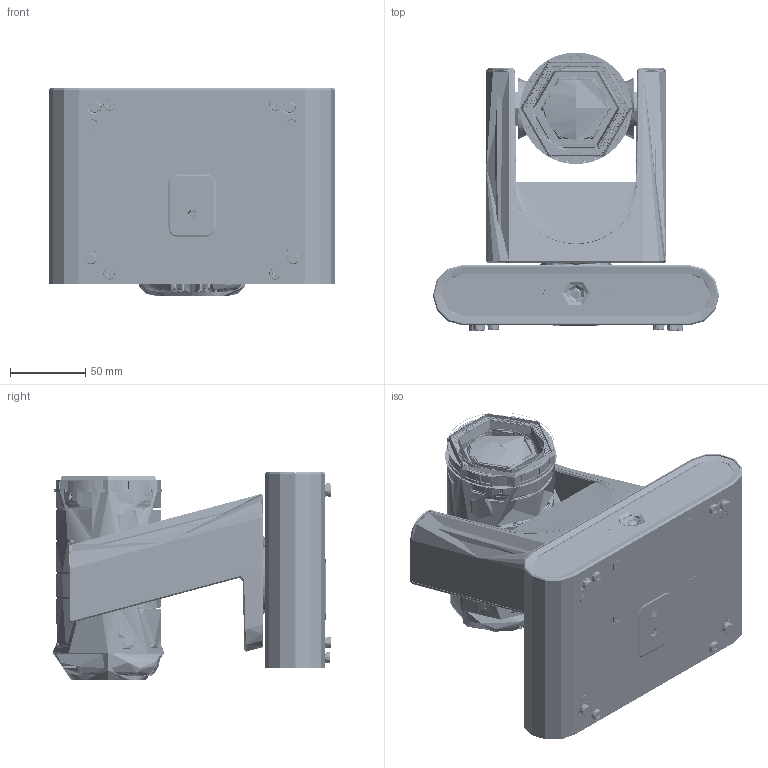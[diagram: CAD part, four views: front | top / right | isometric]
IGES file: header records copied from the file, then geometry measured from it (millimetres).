
Start section: SolidWorks IGES file using analytic representation for surfaces
Global section: file name: Y:\非機密資料暫存區\casper\00_Assy_Body_VC-TR32-0107.IGS; native system: SolidWorks 2020; preprocessor: SolidWorks 2020; author: Casper.Liu; date: 260107.112640; units: millimetre
Bounding box: 190 x 184.9 x 137.6 mm (x, y, z)
Surface area: 452065.2 mm2 (no closed solid volume)
Topology: 0 solids, 0 shells, 8999 faces, 84793 edges, 84688 vertices
Faces by surface type: bspline 6145, revolution 2854
